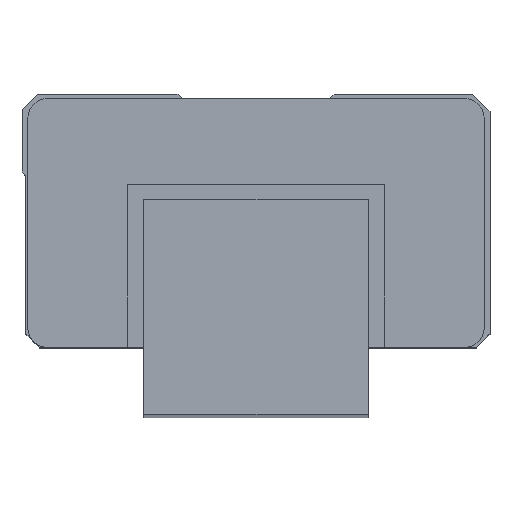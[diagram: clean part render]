
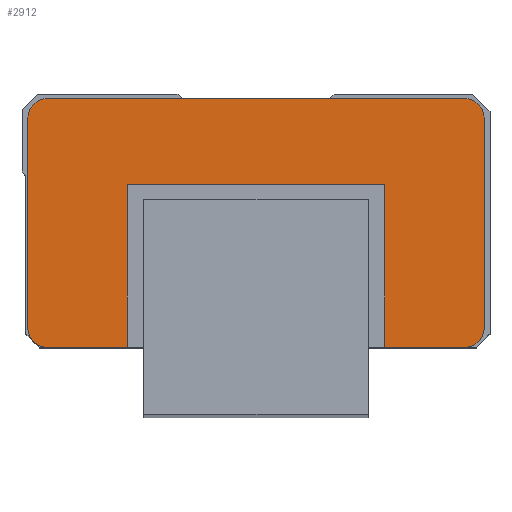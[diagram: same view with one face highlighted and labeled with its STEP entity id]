
A CAD part, top view. The second image highlights one B-rep face of the part: STEP entity #2912.
In plain terms, the highlighted planar face has unit normal (0, 0, 1).
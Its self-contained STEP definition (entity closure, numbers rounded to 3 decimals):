
#2366=CARTESIAN_POINT('',(24.7,23.7,144.7));
#2367=VERTEX_POINT('',#2366);
#2368=CARTESIAN_POINT('',(24.7,7.,144.7));
#2369=VERTEX_POINT('',#2368);
#2370=CARTESIAN_POINT('',(24.7,23.7,144.7));
#2371=DIRECTION('',(0.0,-1.0,0.0));
#2372=VECTOR('',#2371,1.0);
#2373=LINE('',#2370,#2372);
#2374=EDGE_CURVE('',#2367,#2369,#2373,.T.);
#2406=CARTESIAN_POINT('',(-1.7,23.7,144.7));
#2407=VERTEX_POINT('',#2406);
#2408=CARTESIAN_POINT('',(-1.7,23.7,144.7));
#2409=DIRECTION('',(1.0,0.0,0.0));
#2410=VECTOR('',#2409,1.0);
#2411=LINE('',#2408,#2410);
#2412=EDGE_CURVE('',#2407,#2367,#2411,.T.);
#2437=CARTESIAN_POINT('',(-1.7,7.,144.7));
#2438=VERTEX_POINT('',#2437);
#2439=CARTESIAN_POINT('',(-1.7,7.,144.7));
#2440=DIRECTION('',(0.0,1.0,0.0));
#2441=VECTOR('',#2440,1.0);
#2442=LINE('',#2439,#2441);
#2443=EDGE_CURVE('',#2438,#2407,#2442,.T.);
#2527=CARTESIAN_POINT('',(32.9,7.,144.7));
#2528=VERTEX_POINT('',#2527);
#2535=CARTESIAN_POINT('',(32.9,7.,144.7));
#2536=DIRECTION('',(-1.0,0.0,0.0));
#2537=VECTOR('',#2536,1.);
#2538=LINE('',#2535,#2537);
#2539=EDGE_CURVE('',#2528,#2369,#2538,.T.);
#2656=CARTESIAN_POINT('',(-9.9,7.,144.7));
#2657=VERTEX_POINT('',#2656);
#2658=CARTESIAN_POINT('',(-1.7,7.,144.7));
#2659=DIRECTION('',(-1.0,0.0,0.0));
#2660=VECTOR('',#2659,1.0);
#2661=LINE('',#2658,#2660);
#2662=EDGE_CURVE('',#2438,#2657,#2661,.T.);
#2687=CARTESIAN_POINT('',(-11.9,9.,144.7));
#2688=VERTEX_POINT('',#2687);
#2689=CARTESIAN_POINT('',(-11.9,30.5,144.7));
#2690=VERTEX_POINT('',#2689);
#2691=CARTESIAN_POINT('',(-11.9,9.,144.7));
#2692=DIRECTION('',(0.0,1.0,0.0));
#2693=VECTOR('',#2692,1.0);
#2694=LINE('',#2691,#2693);
#2695=EDGE_CURVE('',#2688,#2690,#2694,.T.);
#2718=CARTESIAN_POINT('',(-9.9,32.5,144.7));
#2719=VERTEX_POINT('',#2718);
#2720=CARTESIAN_POINT('',(-9.9,30.5,144.7));
#2721=DIRECTION('',(0.,0.,-1.0));
#2722=DIRECTION('',(-1.0,0.,0.));
#2723=AXIS2_PLACEMENT_3D('',#2720,#2721,#2722);
#2724=CIRCLE('',#2723,2.);
#2725=EDGE_CURVE('',#2690,#2719,#2724,.T.);
#2743=CARTESIAN_POINT('',(32.9,32.5,144.7));
#2744=VERTEX_POINT('',#2743);
#2745=CARTESIAN_POINT('',(-9.9,32.5,144.7));
#2746=DIRECTION('',(1.0,0.0,0.0));
#2747=VECTOR('',#2746,1.0);
#2748=LINE('',#2745,#2747);
#2749=EDGE_CURVE('',#2719,#2744,#2748,.T.);
#2767=CARTESIAN_POINT('',(34.9,30.5,144.7));
#2768=VERTEX_POINT('',#2767);
#2769=CARTESIAN_POINT('',(32.9,30.5,144.7));
#2770=DIRECTION('',(0.,0.,-1.0));
#2771=DIRECTION('',(0.,1.0,0.));
#2772=AXIS2_PLACEMENT_3D('',#2769,#2770,#2771);
#2773=CIRCLE('',#2772,2.);
#2774=EDGE_CURVE('',#2744,#2768,#2773,.T.);
#2792=CARTESIAN_POINT('',(34.9,9.,144.7));
#2793=VERTEX_POINT('',#2792);
#2794=CARTESIAN_POINT('',(34.9,30.5,144.7));
#2795=DIRECTION('',(0.0,-1.0,0.0));
#2796=VECTOR('',#2795,1.0);
#2797=LINE('',#2794,#2796);
#2798=EDGE_CURVE('',#2768,#2793,#2797,.T.);
#2816=CARTESIAN_POINT('',(32.9,9.,144.7));
#2817=DIRECTION('',(0.0,0.0,-1.0));
#2818=DIRECTION('',(1.0,0.0,0.0));
#2819=AXIS2_PLACEMENT_3D('',#2816,#2817,#2818);
#2820=CIRCLE('',#2819,2.);
#2821=EDGE_CURVE('',#2793,#2528,#2820,.T.);
#2880=CARTESIAN_POINT('',(-9.9,9.,144.7));
#2881=DIRECTION('',(0.,0.,-1.0));
#2882=DIRECTION('',(0.,-1.0,0.));
#2883=AXIS2_PLACEMENT_3D('',#2880,#2881,#2882);
#2884=CIRCLE('',#2883,2.);
#2885=EDGE_CURVE('',#2657,#2688,#2884,.T.);
#2893=CARTESIAN_POINT('',(-14.24,5.725,144.7));
#2894=DIRECTION('',(0.0,0.0,1.0));
#2895=DIRECTION('',(1.0,0.0,0.0));
#2896=AXIS2_PLACEMENT_3D('',#2893,#2894,#2895);
#2897=PLANE('',#2896);
#2898=ORIENTED_EDGE('',*,*,#2374,.T.);
#2899=ORIENTED_EDGE('',*,*,#2539,.F.);
#2900=ORIENTED_EDGE('',*,*,#2821,.F.);
#2901=ORIENTED_EDGE('',*,*,#2798,.F.);
#2902=ORIENTED_EDGE('',*,*,#2774,.F.);
#2903=ORIENTED_EDGE('',*,*,#2749,.F.);
#2904=ORIENTED_EDGE('',*,*,#2725,.F.);
#2905=ORIENTED_EDGE('',*,*,#2695,.F.);
#2906=ORIENTED_EDGE('',*,*,#2885,.F.);
#2907=ORIENTED_EDGE('',*,*,#2662,.F.);
#2908=ORIENTED_EDGE('',*,*,#2443,.T.);
#2909=ORIENTED_EDGE('',*,*,#2412,.T.);
#2910=EDGE_LOOP('',(#2898,#2899,#2900,#2901,#2902,#2903,#2904,#2905,#2906,#2907,#2908,#2909));
#2911=FACE_OUTER_BOUND('',#2910,.T.);
#2912=ADVANCED_FACE('',(#2911),#2897,.T.);
